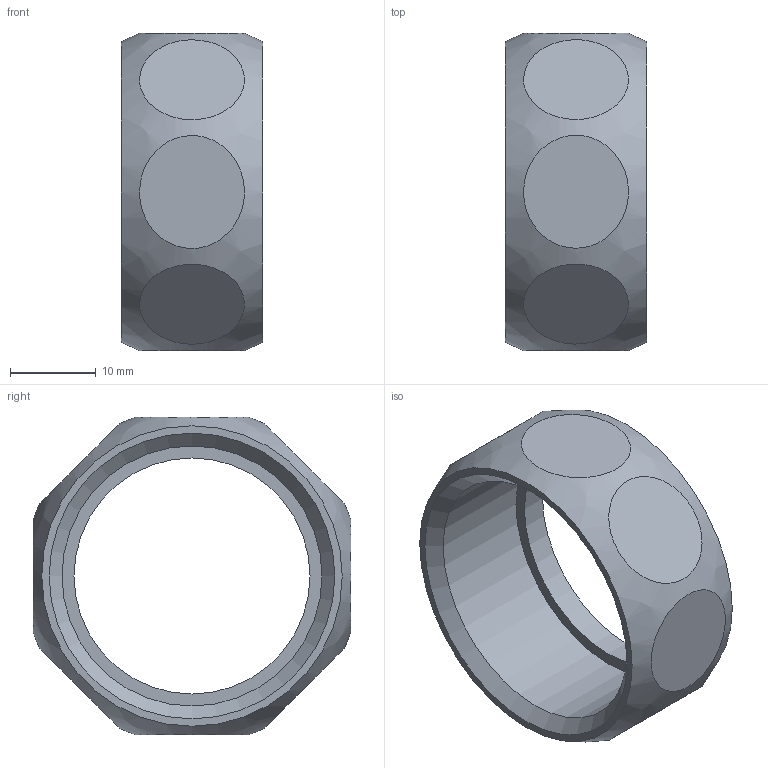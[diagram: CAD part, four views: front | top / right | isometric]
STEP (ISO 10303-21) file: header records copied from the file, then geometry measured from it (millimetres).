
FILE_DESCRIPTION((''),'2;1');
FILE_NAME('\\Lg50001\Groups\SANHA Legnica\Engineering\Public\Pajchrowski\projekty\8000 models\4374\4374 step\14374_1.stp','2008-05-09T14:27:04',('pajchrowski'),(''),'Autodesk Inventor 2008','Autodesk Inventor 2008','');
FILE_SCHEMA(('AUTOMOTIVE_DESIGN { 1 0 10303 214 1 1 1 1 }'));
Length unit declared in the file: millimetre
Products named in the file (1): 14374_1
Bounding box: 16.5 x 37 x 37 mm (x, y, z)
Volume: 6382.9 mm3; surface area: 4209.6 mm2
Topology: 1 solids, 1 shells, 15 faces, 21 edges, 16 vertices
Faces by surface type: plane 11, cylinder 2, cone 1, bspline 1
Full cylindrical faces by diameter (mm): 27.5 x1, 30.291 x1
Entity records: 1556 total; most frequent: CARTESIAN_POINT 1296, DIRECTION 44, ORIENTED_EDGE 30, EDGE_LOOP 30, AXIS2_PLACEMENT_3D 22, VERTEX_POINT 15, EDGE_CURVE 15, FACE_OUTER_BOUND 15
